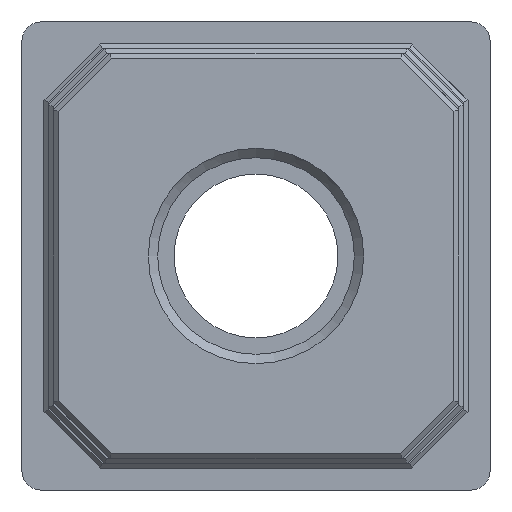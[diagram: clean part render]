
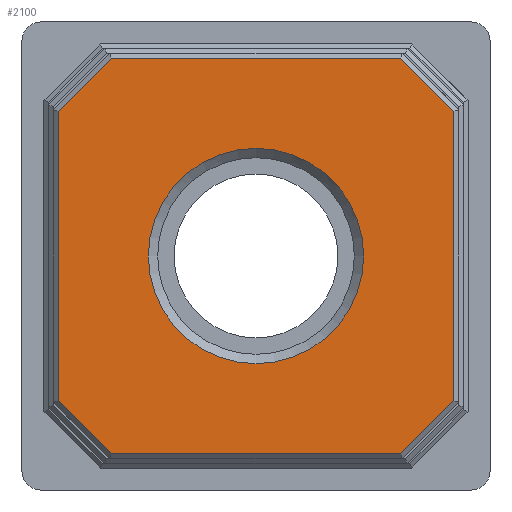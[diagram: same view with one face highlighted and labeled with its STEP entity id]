
A CAD part, front view. The second image highlights one B-rep face of the part: STEP entity #2100.
In plain terms, the highlighted planar face has unit normal (0, -1, 0).
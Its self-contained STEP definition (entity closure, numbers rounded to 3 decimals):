
#1558=CARTESIAN_POINT('',(-546.286,-543.109,15.443));
#1559=VERTEX_POINT('',#1558);
#1566=CARTESIAN_POINT('',(-540.578,-543.109,21.15));
#1567=VERTEX_POINT('',#1566);
#1568=CARTESIAN_POINT('',(-546.286,-543.109,15.443));
#1569=DIRECTION('',(0.707,0.0,0.707));
#1570=VECTOR('',#1569,8.071);
#1571=LINE('',#1568,#1570);
#1572=EDGE_CURVE('',#1559,#1567,#1571,.T.);
#1600=CARTESIAN_POINT('',(-546.286,-543.109,-15.443));
#1601=VERTEX_POINT('',#1600);
#1610=CARTESIAN_POINT('',(-546.286,-543.109,15.443));
#1611=DIRECTION('',(0.0,0.0,-1.0));
#1612=VECTOR('',#1611,30.886);
#1613=LINE('',#1610,#1612);
#1614=EDGE_CURVE('',#1559,#1601,#1613,.T.);
#1645=CARTESIAN_POINT('',(-540.578,-543.109,-21.15));
#1646=VERTEX_POINT('',#1645);
#1653=CARTESIAN_POINT('',(-540.578,-543.109,-21.15));
#1654=DIRECTION('',(-0.707,0.0,0.707));
#1655=VECTOR('',#1654,8.071);
#1656=LINE('',#1653,#1655);
#1657=EDGE_CURVE('',#1646,#1601,#1656,.T.);
#1688=CARTESIAN_POINT('',(-509.693,-543.109,-21.15));
#1689=VERTEX_POINT('',#1688);
#1698=CARTESIAN_POINT('',(-540.578,-543.109,-21.15));
#1699=DIRECTION('',(1.0,0.0,0.0));
#1700=VECTOR('',#1699,30.886);
#1701=LINE('',#1698,#1700);
#1702=EDGE_CURVE('',#1646,#1689,#1701,.T.);
#1733=CARTESIAN_POINT('',(-503.986,-543.109,-15.443));
#1734=VERTEX_POINT('',#1733);
#1741=CARTESIAN_POINT('',(-503.986,-543.109,-15.443));
#1742=DIRECTION('',(-0.707,0.0,-0.707));
#1743=VECTOR('',#1742,8.071);
#1744=LINE('',#1741,#1743);
#1745=EDGE_CURVE('',#1734,#1689,#1744,.T.);
#1776=CARTESIAN_POINT('',(-503.986,-543.109,15.443));
#1777=VERTEX_POINT('',#1776);
#1786=CARTESIAN_POINT('',(-503.986,-543.109,-15.443));
#1787=DIRECTION('',(0.0,0.0,1.0));
#1788=VECTOR('',#1787,30.886);
#1789=LINE('',#1786,#1788);
#1790=EDGE_CURVE('',#1734,#1777,#1789,.T.);
#1821=CARTESIAN_POINT('',(-509.693,-543.109,21.15));
#1822=VERTEX_POINT('',#1821);
#1829=CARTESIAN_POINT('',(-509.693,-543.109,21.15));
#1830=DIRECTION('',(0.707,0.0,-0.707));
#1831=VECTOR('',#1830,8.071);
#1832=LINE('',#1829,#1831);
#1833=EDGE_CURVE('',#1822,#1777,#1832,.T.);
#1871=CARTESIAN_POINT('',(-509.693,-543.109,21.15));
#1872=DIRECTION('',(-1.0,0.0,0.0));
#1873=VECTOR('',#1872,30.886);
#1874=LINE('',#1871,#1873);
#1875=EDGE_CURVE('',#1822,#1567,#1874,.T.);
#2065=CARTESIAN_POINT('',(-551.116,-543.109,25.98));
#2066=DIRECTION('',(0.0,-1.0,0.0));
#2067=DIRECTION('',(0.0,0.0,-1.0));
#2068=AXIS2_PLACEMENT_3D('',#2065,#2066,#2067);
#2069=PLANE('',#2068);
#2070=ORIENTED_EDGE('',*,*,#1875,.T.);
#2071=ORIENTED_EDGE('',*,*,#1572,.F.);
#2072=ORIENTED_EDGE('',*,*,#1614,.T.);
#2073=ORIENTED_EDGE('',*,*,#1657,.F.);
#2074=ORIENTED_EDGE('',*,*,#1702,.T.);
#2075=ORIENTED_EDGE('',*,*,#1745,.F.);
#2076=ORIENTED_EDGE('',*,*,#1790,.T.);
#2077=ORIENTED_EDGE('',*,*,#1833,.F.);
#2078=EDGE_LOOP('',(#2070,#2071,#2072,#2073,#2074,#2075,#2076,#2077));
#2079=FACE_OUTER_BOUND('',#2078,.T.);
#2080=CARTESIAN_POINT('',(-525.136,-543.109,11.5));
#2081=VERTEX_POINT('',#2080);
#2082=CARTESIAN_POINT('',(-525.136,-543.109,-11.5));
#2083=VERTEX_POINT('',#2082);
#2084=CARTESIAN_POINT('',(-525.136,-543.109,0.));
#2085=DIRECTION('',(0.0,-1.0,0.0));
#2086=DIRECTION('',(0.0,0.0,-1.0));
#2087=AXIS2_PLACEMENT_3D('',#2084,#2085,#2086);
#2088=CIRCLE('',#2087,11.5);
#2089=EDGE_CURVE('',#2081,#2083,#2088,.T.);
#2090=ORIENTED_EDGE('',*,*,#2089,.F.);
#2091=CARTESIAN_POINT('',(-525.136,-543.109,0.));
#2092=DIRECTION('',(0.0,-1.0,0.0));
#2093=DIRECTION('',(0.0,0.0,-1.0));
#2094=AXIS2_PLACEMENT_3D('',#2091,#2092,#2093);
#2095=CIRCLE('',#2094,11.5);
#2096=EDGE_CURVE('',#2083,#2081,#2095,.T.);
#2097=ORIENTED_EDGE('',*,*,#2096,.F.);
#2098=EDGE_LOOP('',(#2090,#2097));
#2099=FACE_BOUND('',#2098,.T.);
#2100=ADVANCED_FACE('',(#2079,#2099),#2069,.T.);
